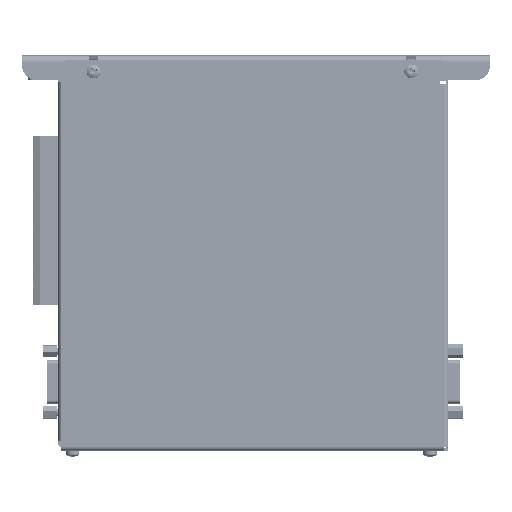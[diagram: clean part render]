
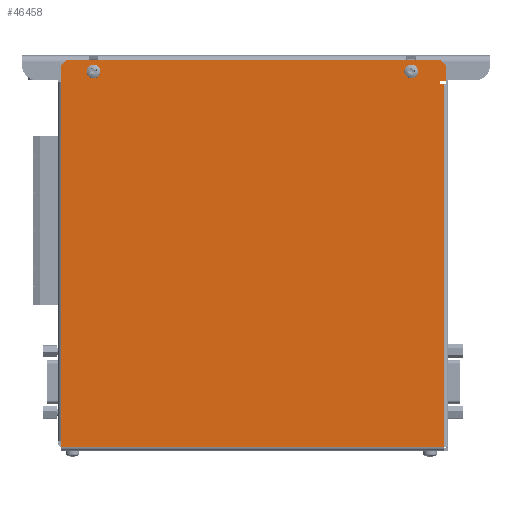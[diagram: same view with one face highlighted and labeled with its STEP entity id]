
A CAD part, top view. The second image highlights one B-rep face of the part: STEP entity #46458.
In plain terms, the highlighted planar face has unit normal (0, 0, 1).
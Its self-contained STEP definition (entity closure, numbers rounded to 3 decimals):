
#131 = VERTEX_POINT ( 'NONE', #23420 ) ;
#1426 = ORIENTED_EDGE ( 'NONE', *, *, #54578, .F. ) ;
#1516 = CARTESIAN_POINT ( 'NONE',  ( 0., 0., 1. ) ) ;
#2154 = CARTESIAN_POINT ( 'NONE',  ( 142., 152.95, 1. ) ) ;
#2701 = CARTESIAN_POINT ( 'NONE',  ( 0., 0.65, 1. ) ) ;
#3719 = DIRECTION ( 'NONE',  ( 0.707, 0.707, 0. ) ) ;
#4580 = DIRECTION ( 'NONE',  ( -1., 0., 0. ) ) ;
#5020 = DIRECTION ( 'NONE',  ( 0., 0., -1. ) ) ;
#7820 = ORIENTED_EDGE ( 'NONE', *, *, #75315, .F. ) ;
#8029 = VERTEX_POINT ( 'NONE', #64848 ) ;
#9171 = LINE ( 'NONE', #22973, #115405 ) ;
#9518 = VERTEX_POINT ( 'NONE', #154049 ) ;
#11217 = VERTEX_POINT ( 'NONE', #127585 ) ;
#12469 = AXIS2_PLACEMENT_3D ( 'NONE', #2154, #102970, #64757 ) ;
#12914 = DIRECTION ( 'NONE',  ( 1., 0., 0. ) ) ;
#14080 = LINE ( 'NONE', #88901, #31443 ) ;
#14294 = CARTESIAN_POINT ( 'NONE',  ( 154., 157.5, 1. ) ) ;
#15477 = CARTESIAN_POINT ( 'NONE',  ( 154., 157.5, 1. ) ) ;
#15795 = DIRECTION ( 'NONE',  ( 1., 0., 0. ) ) ;
#15864 = LINE ( 'NONE', #14294, #62478 ) ;
#20535 = CARTESIAN_POINT ( 'NONE',  ( 155.3, 0.65, 1. ) ) ;
#21194 = CARTESIAN_POINT ( 'NONE',  ( 156., 155.5, 1. ) ) ;
#21692 = LINE ( 'NONE', #133987, #144367 ) ;
#22157 = CARTESIAN_POINT ( 'NONE',  ( 14.7, 152.95, 1. ) ) ;
#22635 = VECTOR ( 'NONE', #51104, 1000. ) ;
#22675 = CIRCLE ( 'NONE', #87596, 1.7 ) ;
#22973 = CARTESIAN_POINT ( 'NONE',  ( 155.3, 0., 1. ) ) ;
#23420 = CARTESIAN_POINT ( 'NONE',  ( 0., 155.5, 1. ) ) ;
#26580 = CARTESIAN_POINT ( 'NONE',  ( 142., 152.95, 1. ) ) ;
#28080 = DIRECTION ( 'NONE',  ( 0.707, -0.707, 0. ) ) ;
#30565 = ORIENTED_EDGE ( 'NONE', *, *, #35861, .F. ) ;
#30585 = EDGE_LOOP ( 'NONE', ( #59558, #117571 ) ) ;
#31370 = VERTEX_POINT ( 'NONE', #50236 ) ;
#31443 = VECTOR ( 'NONE', #52284, 1000. ) ;
#33464 = CARTESIAN_POINT ( 'NONE',  ( 140.3, 152.95, 1. ) ) ;
#34118 = ORIENTED_EDGE ( 'NONE', *, *, #99069, .F. ) ;
#35861 = EDGE_CURVE ( 'NONE', #132286, #49480, #45136, .T. ) ;
#37204 = EDGE_CURVE ( 'NONE', #31370, #132286, #9171, .T. ) ;
#38225 = ORIENTED_EDGE ( 'NONE', *, *, #79841, .F. ) ;
#41433 = LINE ( 'NONE', #104081, #116019 ) ;
#45136 = LINE ( 'NONE', #46744, #70930 ) ;
#45811 = EDGE_CURVE ( 'NONE', #76124, #133051, #107409, .T. ) ;
#46458 = ADVANCED_FACE ( 'NONE', ( #92842, #70059, #66857 ), #130284, .F. ) ;
#46582 = DIRECTION ( 'NONE',  ( 0., -1., 0. ) ) ;
#46744 = CARTESIAN_POINT ( 'NONE',  ( 0., 0.65, 1. ) ) ;
#49480 = VERTEX_POINT ( 'NONE', #2701 ) ;
#50236 = CARTESIAN_POINT ( 'NONE',  ( 155.3, 148., 1. ) ) ;
#50418 = CARTESIAN_POINT ( 'NONE',  ( 13., 152.95, 1. ) ) ;
#51104 = DIRECTION ( 'NONE',  ( 0., 1., 0. ) ) ;
#52284 = DIRECTION ( 'NONE',  ( -1., 0., 0. ) ) ;
#52671 = CARTESIAN_POINT ( 'NONE',  ( 13., 152.95, 1. ) ) ;
#54578 = EDGE_CURVE ( 'NONE', #135162, #8029, #41433, .T. ) ;
#57836 = DIRECTION ( 'NONE',  ( 0., -1., 0. ) ) ;
#58348 = EDGE_CURVE ( 'NONE', #131, #11217, #115994, .T. ) ;
#59128 = DIRECTION ( 'NONE',  ( 0., -1., 0. ) ) ;
#59233 = CIRCLE ( 'NONE', #12469, 1.7 ) ;
#59558 = ORIENTED_EDGE ( 'NONE', *, *, #45811, .F. ) ;
#62478 = VECTOR ( 'NONE', #28080, 1000. ) ;
#64283 = DIRECTION ( 'NONE',  ( 0., -1., 0. ) ) ;
#64757 = DIRECTION ( 'NONE',  ( -1., 0., 0. ) ) ;
#64848 = CARTESIAN_POINT ( 'NONE',  ( 153.58, 148., 1. ) ) ;
#66133 = EDGE_LOOP ( 'NONE', ( #74244, #34118, #1426, #116725, #76021, #38225, #124222, #101648, #7820, #30565 ) ) ;
#66857 = FACE_OUTER_BOUND ( 'NONE', #66133, .T. ) ;
#70059 = FACE_BOUND ( 'NONE', #156789, .T. ) ;
#70649 = VECTOR ( 'NONE', #3719, 1000. ) ;
#70930 = VECTOR ( 'NONE', #84168, 1000. ) ;
#74244 = ORIENTED_EDGE ( 'NONE', *, *, #37204, .F. ) ;
#75315 = EDGE_CURVE ( 'NONE', #49480, #131, #136592, .T. ) ;
#76021 = ORIENTED_EDGE ( 'NONE', *, *, #154629, .F. ) ;
#76124 = VERTEX_POINT ( 'NONE', #80913 ) ;
#76204 = DIRECTION ( 'NONE',  ( 0., 0., 1. ) ) ;
#77694 = CIRCLE ( 'NONE', #150419, 1.7 ) ;
#79841 = EDGE_CURVE ( 'NONE', #142801, #118685, #15864, .T. ) ;
#80913 = CARTESIAN_POINT ( 'NONE',  ( 11.3, 152.95, 1. ) ) ;
#83126 = CARTESIAN_POINT ( 'NONE',  ( 156., 148., 1. ) ) ;
#83805 = AXIS2_PLACEMENT_3D ( 'NONE', #118903, #5020, #57836 ) ;
#84168 = DIRECTION ( 'NONE',  ( -1., 0., 0. ) ) ;
#85773 = VERTEX_POINT ( 'NONE', #138502 ) ;
#87596 = AXIS2_PLACEMENT_3D ( 'NONE', #26580, #76204, #4580 ) ;
#88901 = CARTESIAN_POINT ( 'NONE',  ( 156., 149., 1. ) ) ;
#89039 = CARTESIAN_POINT ( 'NONE',  ( 0., 157.5, 1. ) ) ;
#92842 = FACE_BOUND ( 'NONE', #30585, .T. ) ;
#93516 = EDGE_CURVE ( 'NONE', #9518, #141090, #59233, .T. ) ;
#94745 = CARTESIAN_POINT ( 'NONE',  ( 153.58, 149., 1. ) ) ;
#99069 = EDGE_CURVE ( 'NONE', #8029, #31370, #148781, .T. ) ;
#100857 = DIRECTION ( 'NONE',  ( 0., 0., 1. ) ) ;
#101648 = ORIENTED_EDGE ( 'NONE', *, *, #58348, .F. ) ;
#102314 = DIRECTION ( 'NONE',  ( 0., 0., 1. ) ) ;
#102970 = DIRECTION ( 'NONE',  ( 0., 0., 1. ) ) ;
#104081 = CARTESIAN_POINT ( 'NONE',  ( 153.58, 148., 1. ) ) ;
#107409 = CIRCLE ( 'NONE', #128186, 1.7 ) ;
#108549 = ORIENTED_EDGE ( 'NONE', *, *, #117441, .F. ) ;
#115405 = VECTOR ( 'NONE', #46582, 1000. ) ;
#115994 = LINE ( 'NONE', #140378, #70649 ) ;
#116019 = VECTOR ( 'NONE', #64283, 1000. ) ;
#116725 = ORIENTED_EDGE ( 'NONE', *, *, #126398, .F. ) ;
#117441 = EDGE_CURVE ( 'NONE', #141090, #9518, #22675, .T. ) ;
#117571 = ORIENTED_EDGE ( 'NONE', *, *, #122013, .F. ) ;
#118685 = VERTEX_POINT ( 'NONE', #21194 ) ;
#118903 = CARTESIAN_POINT ( 'NONE',  ( 0., 0., 1. ) ) ;
#119316 = EDGE_CURVE ( 'NONE', #11217, #142801, #128889, .T. ) ;
#122013 = EDGE_CURVE ( 'NONE', #133051, #76124, #77694, .T. ) ;
#124222 = ORIENTED_EDGE ( 'NONE', *, *, #119316, .F. ) ;
#124296 = ORIENTED_EDGE ( 'NONE', *, *, #93516, .F. ) ;
#126398 = EDGE_CURVE ( 'NONE', #85773, #135162, #14080, .T. ) ;
#127585 = CARTESIAN_POINT ( 'NONE',  ( 2., 157.5, 1. ) ) ;
#128186 = AXIS2_PLACEMENT_3D ( 'NONE', #50418, #100857, #151274 ) ;
#128889 = LINE ( 'NONE', #89039, #129167 ) ;
#129167 = VECTOR ( 'NONE', #15795, 1000. ) ;
#130284 = PLANE ( 'NONE',  #83805 ) ;
#132286 = VERTEX_POINT ( 'NONE', #20535 ) ;
#133051 = VERTEX_POINT ( 'NONE', #22157 ) ;
#133987 = CARTESIAN_POINT ( 'NONE',  ( 156., 0., 1. ) ) ;
#135162 = VERTEX_POINT ( 'NONE', #94745 ) ;
#136592 = LINE ( 'NONE', #1516, #22635 ) ;
#138502 = CARTESIAN_POINT ( 'NONE',  ( 156., 149., 1. ) ) ;
#139854 = VECTOR ( 'NONE', #12914, 1000. ) ;
#140378 = CARTESIAN_POINT ( 'NONE',  ( 0., 155.5, 1. ) ) ;
#141090 = VERTEX_POINT ( 'NONE', #33464 ) ;
#142801 = VERTEX_POINT ( 'NONE', #15477 ) ;
#144367 = VECTOR ( 'NONE', #59128, 1000. ) ;
#148781 = LINE ( 'NONE', #83126, #139854 ) ;
#150419 = AXIS2_PLACEMENT_3D ( 'NONE', #52671, #102314, #155151 ) ;
#151274 = DIRECTION ( 'NONE',  ( -1., 0., 0. ) ) ;
#154049 = CARTESIAN_POINT ( 'NONE',  ( 143.7, 152.95, 1. ) ) ;
#154629 = EDGE_CURVE ( 'NONE', #118685, #85773, #21692, .T. ) ;
#155151 = DIRECTION ( 'NONE',  ( -1., 0., 0. ) ) ;
#156789 = EDGE_LOOP ( 'NONE', ( #108549, #124296 ) ) ;
